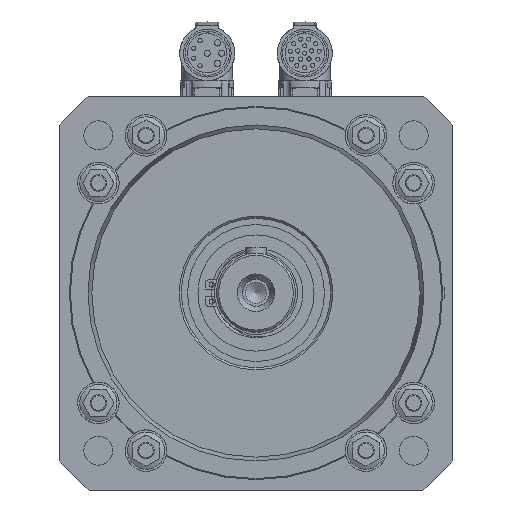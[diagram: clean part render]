
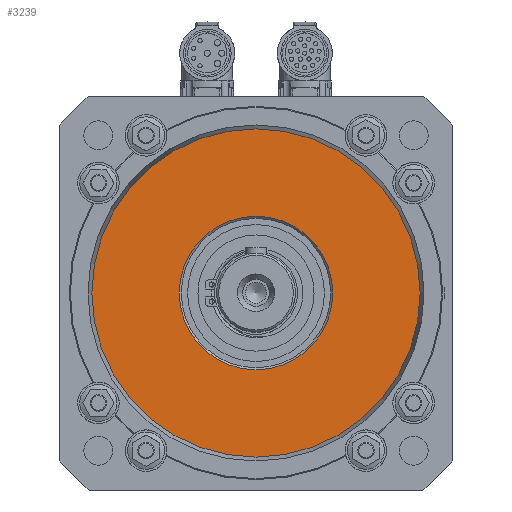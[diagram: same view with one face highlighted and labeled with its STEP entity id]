
A CAD part, top view. The second image highlights one B-rep face of the part: STEP entity #3239.
In plain terms, the highlighted planar face has unit normal (0, 0, 1) as drawn and (0, -1, 0) by its records, which use the part's own axes.
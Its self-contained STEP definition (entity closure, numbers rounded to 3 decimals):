
#3239 = ADVANCED_FACE( '', ( #6990, #6991 ), #6992, .F. );
#6990 = FACE_BOUND( '', #13561, .T. );
#6991 = FACE_OUTER_BOUND( '', #13562, .T. );
#6992 = PLANE( '', #13563 );
#13561 = EDGE_LOOP( '', ( #23876 ) );
#13562 = EDGE_LOOP( '', ( #23877 ) );
#13563 = AXIS2_PLACEMENT_3D( '', #23878, #23879, #23880 );
#23876 = ORIENTED_EDGE( '', *, *, #40226, .T. );
#23877 = ORIENTED_EDGE( '', *, *, #40227, .T. );
#23878 = CARTESIAN_POINT( '', ( 0., -34.896, 79.124 ) );
#23879 = DIRECTION( '', ( 0., 1., 0. ) );
#23880 = DIRECTION( '', ( 0., 0., 1. ) );
#40226 = EDGE_CURVE( '', #51109, #51109, #51110, .T. );
#40227 = EDGE_CURVE( '', #51111, #51111, #51112, .T. );
#51109 = VERTEX_POINT( '', #65823 );
#51110 = CIRCLE( '', #65824, 37. );
#51111 = VERTEX_POINT( '', #65825 );
#51112 = CIRCLE( '', #65826, 79.124 );
#65823 = CARTESIAN_POINT( '', ( 0., -34.896, 37. ) );
#65824 = AXIS2_PLACEMENT_3D( '', #78572, #78573, #78574 );
#65825 = CARTESIAN_POINT( '', ( 0., -34.896, -79.124 ) );
#65826 = AXIS2_PLACEMENT_3D( '', #78575, #78576, #78577 );
#78572 = CARTESIAN_POINT( '', ( 0., -34.896, 0. ) );
#78573 = DIRECTION( '', ( 0., 1., 0. ) );
#78574 = DIRECTION( '', ( 0., 0., 1. ) );
#78575 = CARTESIAN_POINT( '', ( 0., -34.896, 0. ) );
#78576 = DIRECTION( '', ( 0., -1., 0. ) );
#78577 = DIRECTION( '', ( 0., 0., -1. ) );
